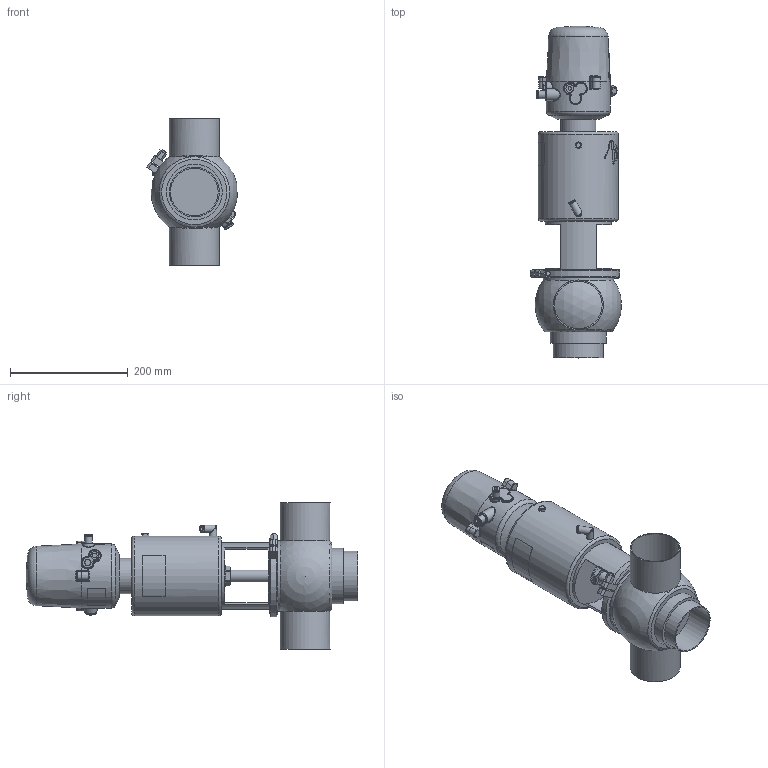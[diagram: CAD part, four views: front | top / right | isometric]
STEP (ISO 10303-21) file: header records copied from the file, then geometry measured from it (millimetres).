
FILE_DESCRIPTION (( 'STEP AP214' ), '1' );
FILE_NAME ('INNOVA N T W DIN 080 T3 AS NC & C-TOP S_10.240.16.0058.STEP', '2024-08-06T08:16:11', ( '' ), ( '' ), 'SwSTEP 2.0', 'SolidWorks 2023', '' );
FILE_SCHEMA (( 'AUTOMOTIVE_DESIGN' ));
Length unit declared in the file: millimetre
Products named in the file (7): 10.426.15.0001_C-TOP S - 1 EV; 10.240.15.0001_DN 080; 10.240.15.0010_DN 080; 10.240.15.0017_Estàndard; 10.240.15.0003_DIN 080; INNOVA N T W DIN 080 T3 AS NC & C-TOP S_10.240.16.0058; 10.240.15.0014_T3 AS P0
Assembly tree (6 placements, depth 2):
  INNOVA N T W DIN 080 T3 AS NC & C-TOP S_10.240.16.0058
    10.240.15.0003_DIN 080
    10.240.15.0010_DN 080
    10.240.15.0014_T3 AS P0
    10.240.15.0017_Estàndard
    10.426.15.0001_C-TOP S - 1 EV
    10.240.15.0001_DN 080
Bounding box: 154.93 x 565 x 250 mm (x, y, z)
Volume: 5484094.8 mm3; surface area: 443850.6 mm2
Topology: 6 solids, 6 shells, 1104 faces, 2663 edges, 1777 vertices
Faces by surface type: plane 376, cylinder 332, cone 191, bspline 160, torus 37, sphere 8
Full cylindrical faces by diameter (mm): 0.371 x17, 0.512 x16, 0.658 x16, 0.795 x16, 0.94 x15, 1.098 x15, 1.241 x13, 1.382 x13, 1.523 x11, 1.669 x10, 2.201 x1, 4 x2, 5.5 x2, 6 x2, 6.15 x1, 8 x4, 8.5 x1, 10 x1, 10.5 x1, 11 x2, 12.5 x3, 13 x2, 13.5 x2, 16 x1, 17 x3, 20 x3, 20.5 x1, 22 x2, 31 x1, 34.5 x3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
Entity records: 57910 total; most frequent: CARTESIAN_POINT 27850, ORIENTED_EDGE 4508, DIRECTION 3619, EDGE_CURVE 2254, VERTEX_POINT 1601, EDGE_LOOP 1553, AXIS2_PLACEMENT_3D 1481, FACE_OUTER_BOUND 1317
